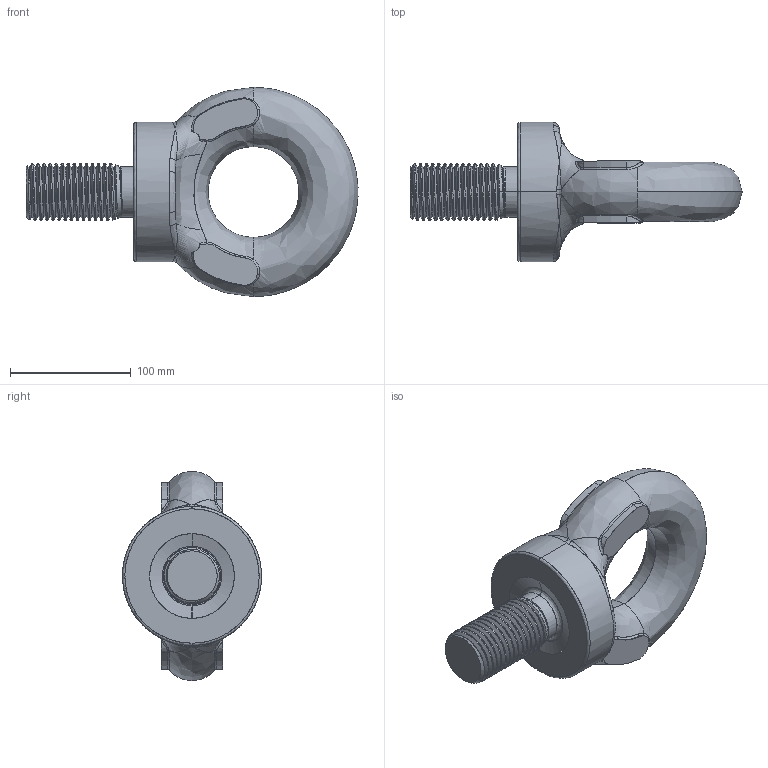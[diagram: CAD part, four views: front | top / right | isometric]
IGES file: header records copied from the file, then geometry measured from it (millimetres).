
Start section: SolidWorks IGES file using analytic representation for surfaces
Global section: file name: C:\Users\Brenton\Documents\Townley\Eye Bolts\EBM48\EBM48.IGS; native system: SolidWorks 2012; preprocessor: SolidWorks 2012; author: Brenton; date: 140224.140703; units: millimetre
Bounding box: 274.4 x 115 x 173 mm (x, y, z)
Surface area: 100136.5 mm2 (no closed solid volume)
Topology: 0 solids, 0 shells, 148 faces, 3178 edges, 3170 vertices
Faces by surface type: bspline 84, revolution 64
